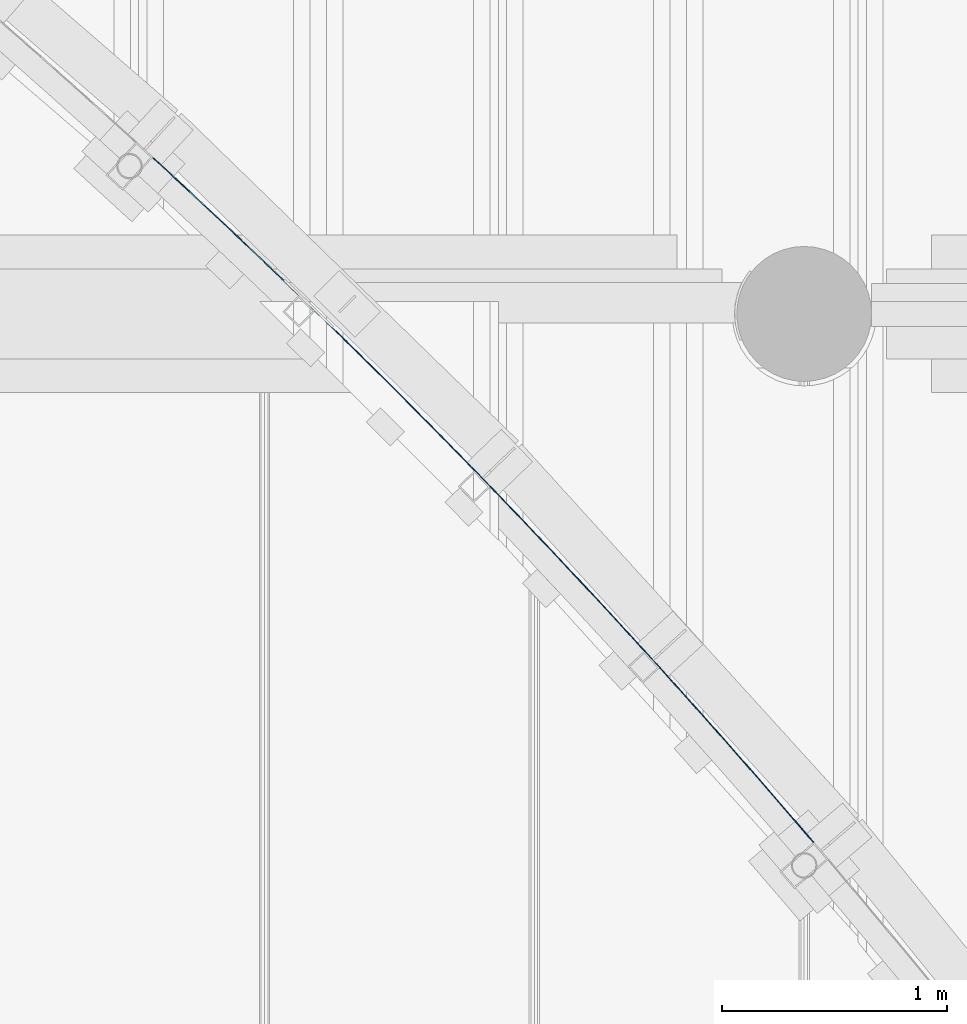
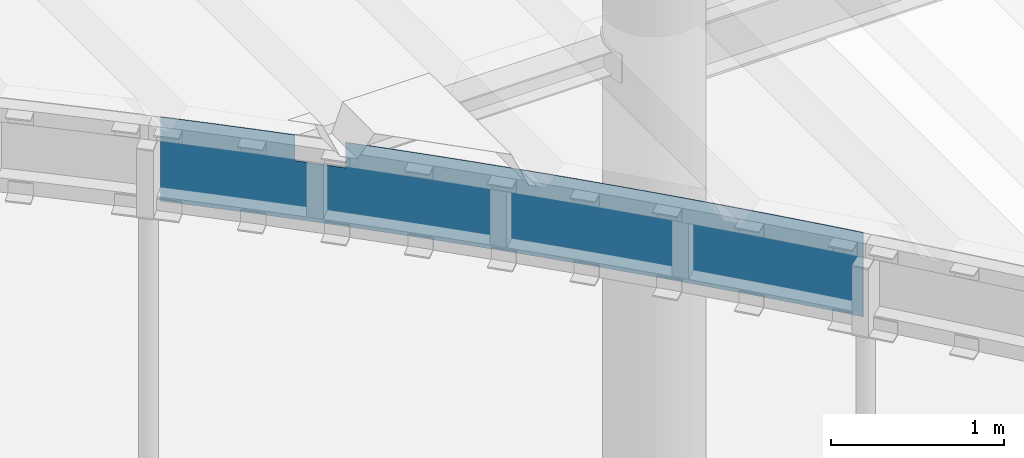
# One storey, part 12 of 98: 1 beam.
"""IFC2X3 building model written with IfcOpenShell, lengths in millimetres."""

from ifc_helpers import new_model, entity, si_unit, converted_unit, derived_unit, direction, frame, origin_with_axes, place, context, subcontext, project, spatial, faceted_brep, material, type_object, element, save


model = new_model("IFC2X3")

# Units and contexts
model_context = context("Model", 3, precision=0.01, world=frame((0.0, 4.29681676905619e-09, 0.0)), true_north=direction((4.01073788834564e-13, 1.0)))
plan_context = context("Plan", 3, precision=0.01, world=frame((0.0, 4.29681676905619e-09, 0.0)), true_north=direction((4.01073788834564e-13, 1.0)))
body_context = subcontext(model_context, "Body", "Model", "MODEL_VIEW")
ifc_project = project(units=[converted_unit("PLANEANGLEUNIT", "DEGREE", entity("IfcPositiveLengthMeasure", 0.0174532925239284), si_unit("PLANEANGLEUNIT", "RADIAN"), dimensions=[0, 0, 0, 0, 0, 0, 0]), si_unit("AREAUNIT", "SQUARE_METRE"), si_unit("LENGTHUNIT", "METRE", prefix="MILLI"), si_unit("MASSUNIT", "GRAM", prefix="KILO"), si_unit("POWERUNIT", "WATT"), si_unit("PRESSUREUNIT", "PASCAL"), si_unit("FORCEUNIT", "NEWTON", prefix="KILO"), si_unit("ELECTRICCURRENTUNIT", "AMPERE"), si_unit("THERMODYNAMICTEMPERATUREUNIT", "DEGREE_CELSIUS"), si_unit("TIMEUNIT", "SECOND"), si_unit("VOLUMEUNIT", "CUBIC_METRE"), derived_unit("LINEARVELOCITYUNIT", [(si_unit("LENGTHUNIT", "METRE"), 1), (si_unit("TIMEUNIT", "SECOND"), -1)]), derived_unit("VOLUMETRICFLOWRATEUNIT", [(si_unit("VOLUMEUNIT", "CUBIC_METRE"), 1), (si_unit("TIMEUNIT", "SECOND"), -1)]), derived_unit("THERMALTRANSMITTANCEUNIT", [(si_unit("POWERUNIT", "WATT"), 1), (si_unit("THERMODYNAMICTEMPERATUREUNIT", "KELVIN"), -1), (si_unit("AREAUNIT", "SQUARE_METRE"), -1)])], contexts=[model_context, plan_context])

# Site, building, storey
site_placement = place(None, frame((0.0, -4.29681676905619e-09, 0.0), z_axis=(0.0, 0.0, 1.0), x_axis=(1.0, 0.0, 0.0)))
site = spatial("IfcSite", under=ifc_project, at=site_placement, Name="Gardermoen", CompositionType="ELEMENT")
building_placement = place(site_placement, frame((0.0, 4.29681676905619e-09, 0.0), z_axis=(0.0, 0.0, 1.0), x_axis=(1.0, 0.0, 0.0)))
building = spatial("IfcBuilding", under=site, at=building_placement, Name="TS", CompositionType="ELEMENT")
storey_placement = place(building_placement, origin_with_axes())
storey = spatial("IfcBuildingStorey", under=building, at=storey_placement, Name="D", CompositionType="ELEMENT", Elevation=0.0)

# Beam
ifc_material = material(Name="STEEL/S355")
beam_type = type_object("IfcBeamType", Name="4*595", PredefinedType="NOTDEFINED")
beam_placement = place(storey_placement, frame((526066.111822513, 406229.436864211, 206802.5), z_axis=(0.721551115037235, 0.69236116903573, 0.0), x_axis=(0.69236116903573, -0.721551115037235, 0.0)))
element("IfcBeam", 1, at=beam_placement, inside=storey, type_object=beam_type, material=ifc_material, Name="STÅLBJELKE", ObjectType="4*595", context=body_context, shape_type="Brep", body=[
    faceted_brep([(848.300101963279, -297.5, 46.8202127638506), (848.443746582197, -297.5, 42.8227575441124), (848.443746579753, -116.500000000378, 42.822757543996), (848.30010196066, -116.500000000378, 46.8202127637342), (1084.75181580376, -116.500000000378, 55.6507309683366), (994.28664706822, -116.500000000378, 52.4730242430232), (903.830049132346, -116.500000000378, 49.0600395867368), (903.986062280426, -116.500000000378, 45.0630832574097), (994.432264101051, -116.500000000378, 48.4756756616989), (1084.88703573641, -116.500000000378, 51.6530171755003), (1148.23699169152, -116.500000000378, 53.7133126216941), (1148.09334762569, -116.500000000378, 57.7107524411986), (1148.08772645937, -297.5, 57.7105696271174), (1148.23137052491, -297.5, 53.7131298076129), (90.4568169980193, 297.5, 3.76779553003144), (90.4568169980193, -297.5, 3.76779553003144), (50.0958958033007, -297.5, 1.19244918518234), (50.0958958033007, 297.5, 1.19244918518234), (90.2072947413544, -297.5, 7.7600052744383), (90.2072947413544, 297.5, 7.7600052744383), (49.8356283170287, 297.5, 5.18397329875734), (49.8356283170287, -297.5, 5.18397329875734), (180.559228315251, 297.5, 13.2892614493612), (180.798366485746, 297.5, 9.29641623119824), (180.798366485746, -297.5, 9.29641623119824), (180.559228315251, -297.5, 13.2892614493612), (270.925237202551, -297.5, 18.5835047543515), (270.925237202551, 297.5, 18.5835047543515), (271.153989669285, 297.5, 14.5900510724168), (271.153989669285, -297.5, 14.5900510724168), (361.523075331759, -297.5, 19.6486642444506), (361.304710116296, -297.5, 23.6426993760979), (361.304710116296, 297.5, 23.6426993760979), (361.523075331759, 297.5, 19.6486642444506), (451.905012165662, 297.5, 24.4722215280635), (451.905012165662, -297.5, 24.4722215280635), (451.697035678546, -297.5, 28.4668110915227), (451.697035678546, 297.5, 28.4668110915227), (542.101602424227, 297.5, 33.0558072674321), (542.299188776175, 297.5, 29.0606902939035), (542.299188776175, -297.5, 29.0606902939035), (542.101602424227, -297.5, 33.0558072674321), (632.517798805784, -297.5, 37.4096568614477), (632.517798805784, 297.5, 37.4096568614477), (632.704993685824, 297.5, 33.4140395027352), (632.704993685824, -297.5, 33.4140395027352), (723.121815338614, -297.5, 37.5322397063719), (722.945013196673, -297.5, 41.5283304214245), (722.945013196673, 297.5, 41.5283304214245), (723.121815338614, 297.5, 37.5322397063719), (813.549042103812, 297.5, 41.4152630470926), (813.549042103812, -297.5, 41.4152630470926), (813.382633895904, -297.5, 45.4118000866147), (813.382633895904, 297.5, 45.4118000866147), (903.830049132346, 297.5, 49.0600395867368), (903.986062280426, 297.5, 45.0630832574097), (994.28664706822, 297.5, 52.4730242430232), (994.432264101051, 297.5, 48.4756756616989), (1084.75181580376, 297.5, 55.6507309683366), (1084.88703573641, 297.5, 51.6530171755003), (1175.22494338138, 297.5, 58.593138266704), (1175.34976529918, 297.5, 54.595086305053), (1175.34976529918, -297.5, 54.595086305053), (1265.8198408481, 297.5, 57.3018631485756), (1265.8198408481, -297.5, 57.3018631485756), (1356.29665039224, 297.5, 59.7733293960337), (1356.29665039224, -297.5, 59.7733293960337), (1446.77958189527, 297.5, 62.0094683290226), (1446.77958189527, -297.5, 62.0094683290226), (1537.26802327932, 297.5, 64.0102648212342), (1537.26802327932, -297.5, 64.0102648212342), (1627.76136242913, 297.5, 65.7757053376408), (1627.76136242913, -297.5, 65.7757053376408), (1718.25898719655, 297.5, 67.3057779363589), (1718.25898719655, -297.5, 67.3057779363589), (1808.76028540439, 297.5, 68.6004722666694), (1808.76028540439, -297.5, 68.6004722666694), (1899.26464485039, 297.5, 69.6597795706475), (1899.26464485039, -297.5, 69.6597795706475), (1989.7714533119, 297.5, 70.4836926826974), (1989.7714533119, -297.5, 70.4836926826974), (2080.28009854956, 297.5, 71.0722060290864), (2080.28009854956, -297.5, 71.0722060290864), (2170.78996831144, 297.5, 71.4253156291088), (2170.78996831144, -297.5, 71.4253156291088), (2261.30045033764, 297.5, 71.5430190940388), (2261.30045033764, -297.5, 71.5430190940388), (2351.81093236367, 297.5, 71.4253156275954), (2351.81093236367, -297.5, 71.4253156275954), (2442.32080212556, 297.5, 71.0722060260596), (2442.32080212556, -297.5, 71.0722060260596), (2532.82944736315, 297.5, 70.4836926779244), (2532.82944736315, -297.5, 70.4836926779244), (2623.33625582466, 297.5, 69.6597795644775), (2623.33625582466, -297.5, 69.6597795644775), (2713.84061527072, 297.5, 68.600472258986), (2713.84061527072, -297.5, 68.600472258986), (2804.34191347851, 297.5, 67.3057779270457), (2804.34191347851, -297.5, 67.3057779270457), (2894.83953824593, 297.5, 65.7757053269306), (2894.83953824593, -297.5, 65.7757053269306), (2985.33287739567, 297.5, 64.0102648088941), (2985.33287739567, -297.5, 64.0102648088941), (3075.82131877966, 297.5, 62.0094683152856), (3075.82131877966, -297.5, 62.0094683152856), (3166.30425028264, 297.5, 59.7733293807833), (3166.30425028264, -297.5, 59.7733293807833), (3256.78105982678, 297.5, 57.3018631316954), (3256.78105982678, -297.5, 57.3018631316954), (3347.25113537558, 297.5, 54.5950862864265), (3347.25113537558, -297.5, 54.5950862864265), (3437.71386493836, 297.5, 51.6530171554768), (3437.71386493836, -297.5, 51.6530171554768), (3528.16863657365, 297.5, 48.4756756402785), (3528.16863657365, -297.5, 48.4756756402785), (3618.61483839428, 297.5, 45.0630832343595), (3618.61483839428, -297.5, 45.0630832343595), (3709.05185857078, 297.5, 41.4152630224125), (3709.05185857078, -297.5, 41.4152630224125), (3799.47908533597, 297.5, 37.5322396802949), (3799.47908533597, -297.5, 37.5322396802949), (3889.89590698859, 297.5, 33.4140394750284), (3889.89590698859, -297.5, 33.4140394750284), (3980.30171189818, 297.5, 29.0606902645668), (3980.30171189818, -297.5, 29.0606902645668), (4070.69588850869, 297.5, 24.4722214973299), (4070.69588850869, -297.5, 24.4722214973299), (4161.07782534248, 297.5, 19.6486642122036), (4161.07782534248, -297.5, 19.6486642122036), (4251.4469110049, 297.5, 14.5900510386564), (4251.4469110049, -297.5, 14.5900510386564), (4282.52070727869, 297.5, 12.7695408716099), (4282.52070727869, -297.5, 12.7695408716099), (4251.67566347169, 297.5, 18.5835047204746), (4282.74415473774, 297.5, 16.763305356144), (4161.296190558, 297.5, 23.6426993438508), (4070.90386499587, 297.5, 28.466811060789), (3980.49929825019, 297.5, 33.0558072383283), (3890.08310186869, 297.5, 37.4096568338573), (3799.65588747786, 297.5, 41.5283303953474), (3709.21826677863, 297.5, 45.4118000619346), (3618.77085154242, 297.5, 49.0600395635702), (3528.31425360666, 297.5, 52.4730242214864), (3437.84908487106, 297.5, 55.6507309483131), (3347.37595729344, 297.5, 58.5931382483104), (3256.89548288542, 297.5, 61.3002262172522), (3166.40827370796, 297.5, 63.7719765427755), (3075.91494186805, 297.5, 66.0083725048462), (2985.41609951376, 297.5, 68.0093989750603), (2894.91235883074, 297.5, 69.7750424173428), (2804.40433203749, 297.5, 71.3052908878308), (2713.89263138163, 297.5, 72.6001340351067), (2623.3778691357, 297.5, 73.6595631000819), (2532.86065759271, 297.5, 74.4835709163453), (2442.34160906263, 297.5, 75.0721519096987), (2351.8213358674, 297.5, 75.4253020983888), (2261.30045033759, 297.5, 75.5430190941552), (2170.77956480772, 297.5, 75.4253021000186), (2080.2592916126, 297.5, 75.0721519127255), (1989.74024308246, 297.5, 74.4835709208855), (1899.22303153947, 297.5, 73.6595631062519), (1808.70826929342, 297.5, 72.6001340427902), (1718.19656863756, 297.5, 71.3052908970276), (1627.68854184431, 297.5, 69.775042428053), (1537.18480116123, 297.5, 68.0093989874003), (1446.68595880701, 297.5, 66.008372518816), (1356.19262696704, 297.5, 63.7719765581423), (1265.70541778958, 297.5, 61.3002262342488), (1175.22494338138, -297.5, 58.593138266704), (1265.70541778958, -297.5, 61.3002262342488), (1356.19262696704, -297.5, 63.7719765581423), (1446.68595880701, -297.5, 66.008372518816), (1537.18480116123, -297.5, 68.0093989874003), (1627.68854184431, -297.5, 69.775042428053), (1718.19656863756, -297.5, 71.3052908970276), (1808.70826929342, -297.5, 72.6001340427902), (1899.22303153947, -297.5, 73.6595631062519), (1989.74024308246, -297.5, 74.4835709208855), (2080.2592916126, -297.5, 75.0721519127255), (2170.77956480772, -297.5, 75.4253021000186), (2261.30045033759, -297.5, 75.5430190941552), (2351.8213358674, -297.5, 75.4253020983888), (2442.34160906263, -297.5, 75.0721519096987), (2532.86065759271, -297.5, 74.4835709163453), (2623.3778691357, -297.5, 73.6595631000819), (2713.89263138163, -297.5, 72.6001340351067), (2804.40433203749, -297.5, 71.3052908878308), (2894.91235883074, -297.5, 69.7750424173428), (2985.41609951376, -297.5, 68.0093989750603), (3075.91494186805, -297.5, 66.0083725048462), (3166.40827370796, -297.5, 63.7719765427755), (3256.89548288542, -297.5, 61.3002262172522), (3347.37595729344, -297.5, 58.5931382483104), (3437.84908487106, -297.5, 55.6507309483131), (3528.31425360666, -297.5, 52.4730242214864), (3618.77085154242, -297.5, 49.0600395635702), (3709.21826677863, -297.5, 45.4118000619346), (3799.65588747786, -297.5, 41.5283303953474), (3890.08310186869, -297.5, 37.4096568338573), (3980.49929825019, -297.5, 33.0558072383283), (4070.90386499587, -297.5, 28.466811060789), (4161.296190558, -297.5, 23.6426993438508), (4251.67566347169, -297.5, 18.5835047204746), (4282.74415473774, -297.5, 16.763305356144)], [[[0, 1, 2, 3]], [[4, 5, 6, 3, 2, 7, 8, 9, 10, 11]], [[12, 11, 10, 13]], [[14, 15, 16, 17]], [[18, 19, 20, 21]], [[15, 18, 21, 16]], [[20, 17, 16, 21]], [[19, 14, 17, 20]], [[14, 19, 22, 23]], [[15, 14, 23, 24]], [[18, 15, 24, 25]], [[19, 18, 25, 22]], [[22, 25, 26, 27]], [[23, 22, 27, 28]], [[24, 23, 28, 29]], [[25, 24, 29, 26]], [[26, 29, 30, 31]], [[27, 26, 31, 32]], [[28, 27, 32, 33]], [[29, 28, 33, 30]], [[30, 33, 34, 35]], [[31, 30, 35, 36]], [[32, 31, 36, 37]], [[33, 32, 37, 34]], [[34, 37, 38, 39]], [[35, 34, 39, 40]], [[36, 35, 40, 41]], [[37, 36, 41, 38]], [[38, 41, 42, 43]], [[39, 38, 43, 44]], [[40, 39, 44, 45]], [[41, 40, 45, 42]], [[42, 45, 46, 47]], [[43, 42, 47, 48]], [[44, 43, 48, 49]], [[45, 44, 49, 46]], [[46, 49, 50, 51]], [[47, 46, 51, 52]], [[48, 47, 52, 53]], [[49, 48, 53, 50]], [[50, 53, 54, 55]], [[55, 54, 56, 57]], [[57, 56, 58, 59]], [[59, 58, 60, 61]], [[62, 61, 63, 64]], [[64, 63, 65, 66]], [[66, 65, 67, 68]], [[68, 67, 69, 70]], [[70, 69, 71, 72]], [[72, 71, 73, 74]], [[74, 73, 75, 76]], [[76, 75, 77, 78]], [[78, 77, 79, 80]], [[80, 79, 81, 82]], [[82, 81, 83, 84]], [[84, 83, 85, 86]], [[86, 85, 87, 88]], [[88, 87, 89, 90]], [[90, 89, 91, 92]], [[92, 91, 93, 94]], [[94, 93, 95, 96]], [[96, 95, 97, 98]], [[98, 97, 99, 100]], [[100, 99, 101, 102]], [[102, 101, 103, 104]], [[104, 103, 105, 106]], [[106, 105, 107, 108]], [[108, 107, 109, 110]], [[110, 109, 111, 112]], [[112, 111, 113, 114]], [[114, 113, 115, 116]], [[116, 115, 117, 118]], [[118, 117, 119, 120]], [[120, 119, 121, 122]], [[122, 121, 123, 124]], [[124, 123, 125, 126]], [[126, 125, 127, 128]], [[128, 127, 129, 130]], [[130, 129, 131, 132]], [[129, 133, 134, 131]], [[127, 135, 133, 129]], [[125, 136, 135, 127]], [[123, 137, 136, 125]], [[121, 138, 137, 123]], [[119, 139, 138, 121]], [[117, 140, 139, 119]], [[115, 141, 140, 117]], [[113, 142, 141, 115]], [[111, 143, 142, 113]], [[109, 144, 143, 111]], [[107, 145, 144, 109]], [[105, 146, 145, 107]], [[103, 147, 146, 105]], [[101, 148, 147, 103]], [[99, 149, 148, 101]], [[97, 150, 149, 99]], [[95, 151, 150, 97]], [[93, 152, 151, 95]], [[91, 153, 152, 93]], [[89, 154, 153, 91]], [[87, 155, 154, 89]], [[85, 156, 155, 87]], [[83, 157, 156, 85]], [[81, 158, 157, 83]], [[79, 159, 158, 81]], [[77, 160, 159, 79]], [[75, 161, 160, 77]], [[73, 162, 161, 75]], [[71, 163, 162, 73]], [[69, 164, 163, 71]], [[67, 165, 164, 69]], [[65, 166, 165, 67]], [[63, 167, 166, 65]], [[61, 60, 167, 63]], [[60, 168, 169, 167]], [[167, 169, 170, 166]], [[166, 170, 171, 165]], [[165, 171, 172, 164]], [[164, 172, 173, 163]], [[163, 173, 174, 162]], [[162, 174, 175, 161]], [[161, 175, 176, 160]], [[160, 176, 177, 159]], [[159, 177, 178, 158]], [[158, 178, 179, 157]], [[157, 179, 180, 156]], [[156, 180, 181, 155]], [[155, 181, 182, 154]], [[154, 182, 183, 153]], [[153, 183, 184, 152]], [[152, 184, 185, 151]], [[151, 185, 186, 150]], [[150, 186, 187, 149]], [[149, 187, 188, 148]], [[148, 188, 189, 147]], [[147, 189, 190, 146]], [[146, 190, 191, 145]], [[145, 191, 192, 144]], [[144, 192, 193, 143]], [[143, 193, 194, 142]], [[142, 194, 195, 141]], [[141, 195, 196, 140]], [[140, 196, 197, 139]], [[139, 197, 198, 138]], [[138, 198, 199, 137]], [[137, 199, 200, 136]], [[136, 200, 201, 135]], [[135, 201, 202, 133]], [[133, 202, 203, 134]], [[131, 134, 203, 132]], [[202, 130, 132, 203]], [[201, 128, 130, 202]], [[200, 126, 128, 201]], [[199, 124, 126, 200]], [[198, 122, 124, 199]], [[197, 120, 122, 198]], [[196, 118, 120, 197]], [[195, 116, 118, 196]], [[194, 114, 116, 195]], [[193, 112, 114, 194]], [[192, 110, 112, 193]], [[191, 108, 110, 192]], [[190, 106, 108, 191]], [[189, 104, 106, 190]], [[188, 102, 104, 189]], [[187, 100, 102, 188]], [[186, 98, 100, 187]], [[185, 96, 98, 186]], [[184, 94, 96, 185]], [[183, 92, 94, 184]], [[182, 90, 92, 183]], [[181, 88, 90, 182]], [[180, 86, 88, 181]], [[179, 84, 86, 180]], [[178, 82, 84, 179]], [[177, 80, 82, 178]], [[176, 78, 80, 177]], [[175, 76, 78, 176]], [[174, 74, 76, 175]], [[173, 72, 74, 174]], [[172, 70, 72, 173]], [[171, 68, 70, 172]], [[170, 66, 68, 171]], [[169, 64, 66, 170]], [[168, 62, 64, 169]], [[62, 168, 12, 13]], [[9, 59, 61, 62, 13, 10]], [[57, 59, 9, 8]], [[55, 57, 8, 7]], [[1, 51, 50, 55, 7, 2]], [[52, 51, 1, 0]], [[54, 53, 52, 0, 3, 6]], [[56, 54, 6, 5]], [[58, 56, 5, 4]], [[168, 60, 58, 4, 11, 12]]]),
])

save(model, "model.ifc")
